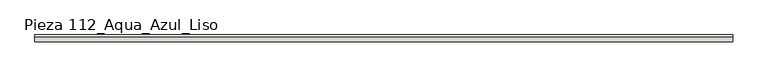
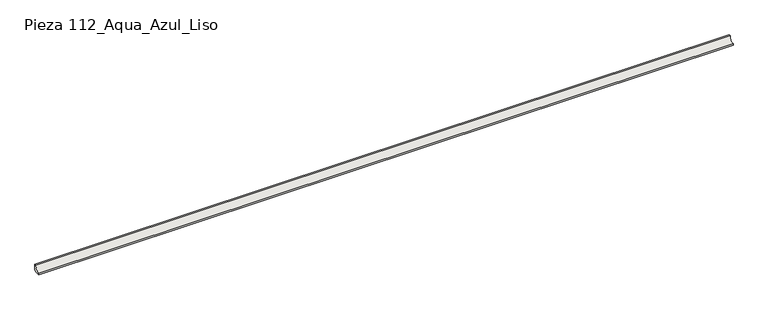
"""IFC4 building model written with IfcOpenShell, lengths in millimetres: slab geometry, ROSA GRES_112 : Pieza 112_Aqua_Azul_Liso."""

from ifc_helpers import new_model, si_unit, point, frame, frame_2d, origin, place, context, project, spatial, polyline, circle_curve, trimmed, segment, composite_curve, outline, extrude, source, transform, mapped, element, save


def pieza_112_aqua_azul_liso_13d236a3(model_context):
    return source(origin(), model_context, "Body", "SweptSolid", [
        extrude(outline(composite_curve([segment(polyline([(0.0, 8.7114978), (-8.7114978, 0.0), (-40.0, 0.0), (-40.0, 9.9734114)]), True, "CONTINUOUS"), segment(trimmed(circle_curve(frame_2d((-39.9955547, 39.9955547)), 30.0221435), [point((-40.0, 9.9734114))], [point((-9.9734114, 40.0))], True, "CARTESIAN"), True, "CONTINUOUS"), segment(polyline([(-9.9734114, 40.0), (0.0, 40.0), (0.0, 8.7114978)]), True, "CONTINUOUS")], self_intersect=False)), frame((0.0, 0.0, 0.0), z_axis=(1.0, 0.0, 0.0), x_axis=(0.0, 1.0, 0.0)), (0.0, 0.0, 1.0), 4000.0),
    ])


if __name__ == "__main__":
    model = new_model("IFC4")
    model_context = context("Model", 3, world=origin())
    ifc_project = project(units=[si_unit("LENGTHUNIT", "METRE", prefix="MILLI")], contexts=[model_context])
    site = spatial("IfcSite", under=ifc_project)
    building = spatial("IfcBuilding", under=site)
    placement = place(None, origin())
    pieza_112_aqua_azul_liso_shape = pieza_112_aqua_azul_liso_13d236a3(model_context)
    element("IfcSlab", 1, ObjectType="ROSA GRES_112 : Pieza 112_Aqua_Azul_Liso", at=placement, inside=building, context=model_context, shape_type="MappedRepresentation", body=[
        mapped(pieza_112_aqua_azul_liso_shape, transform((0.0, 0.0, 0.0), x_axis=(1.0, 0.0, 0.0), y_axis=(0.0, 1.0, 0.0), z_axis=(0.0, 0.0, 1.0))),
    ])
    save(model, "model.ifc")
